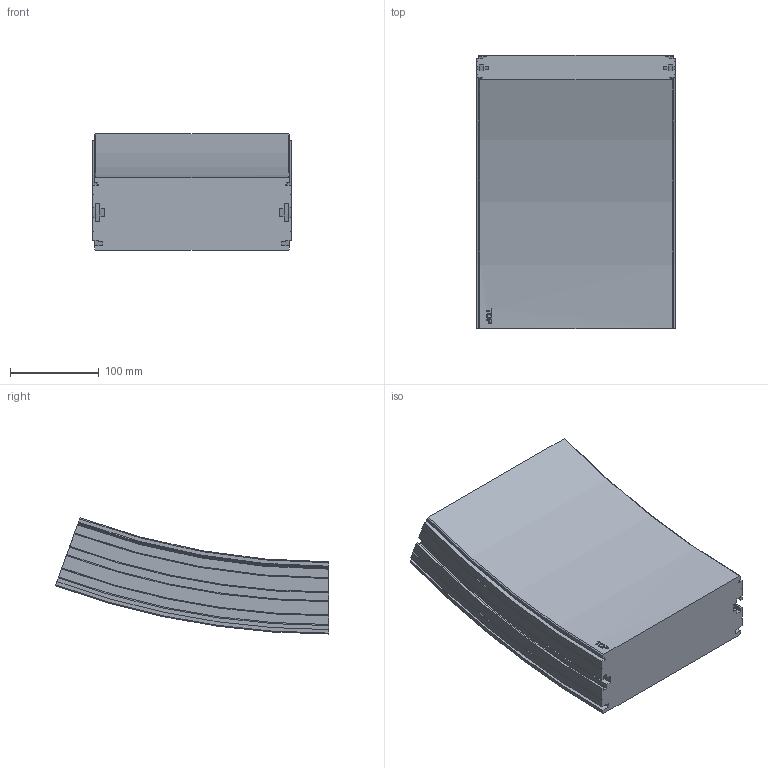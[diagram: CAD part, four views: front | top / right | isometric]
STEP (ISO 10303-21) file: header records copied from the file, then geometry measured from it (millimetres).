
FILE_DESCRIPTION(/* description */ ('VERTIKALKURVA S220 R860'),/* implementation_level */ '2;1');
FILE_NAME(/* name */ '\\carryline.intra\privat\users\mathias\Desktop\Tillfälliga filer\220-5695+220-2000-UPP-01.stp',/* time_stamp */ '2018-11-29T14:56:24+01:00',/* author */ ('MD'),/* organization */ ('CARRYLINE'),/* preprocessor_version */ 'ST-DEVELOPER v17',/* originating_system */ 'Autodesk Inventor 2018',/* authorisation */ '');
FILE_SCHEMA (('AUTOMOTIVE_DESIGN { 1 0 10303 214 3 1 1 }'));
Length unit declared in the file: millimetre
Products named in the file (1): 220-5695+220-2000-UPP-01
Bounding box: 224 x 308.5 x 130.98 mm (x, y, z)
Volume: 5319053.9 mm3; surface area: 261984.5 mm2
Topology: 1 solids, 1 shells, 113 faces, 318 edges, 212 vertices
Faces by surface type: plane 48, cylinder 31, bspline 14, cone 14, torus 6
Entity records: 8349 total; most frequent: CARTESIAN_POINT 5381, ORIENTED_EDGE 636, DIRECTION 576, EDGE_CURVE 318, VERTEX_POINT 212, AXIS2_PLACEMENT_3D 199, LINE 178, VECTOR 178
